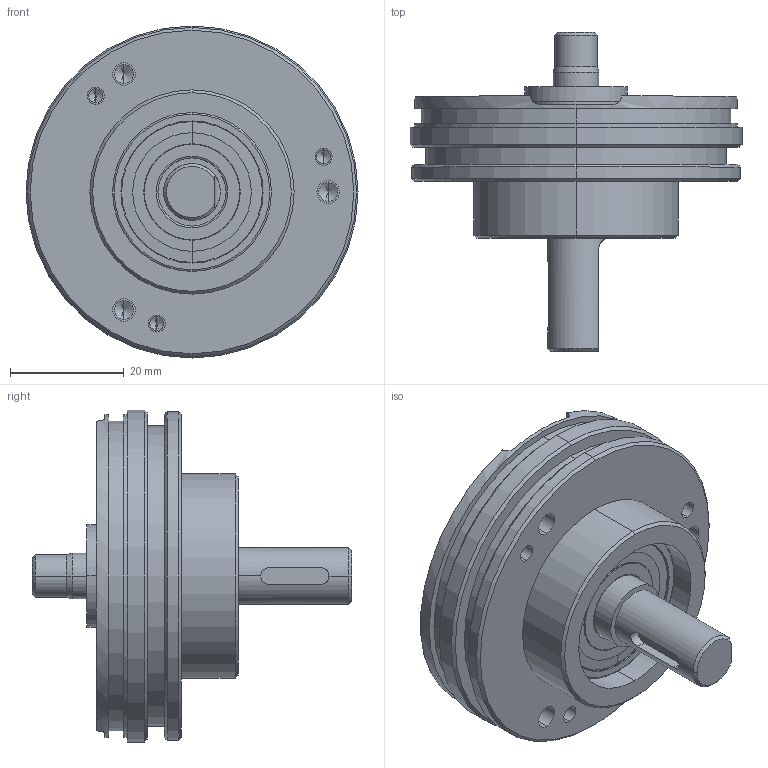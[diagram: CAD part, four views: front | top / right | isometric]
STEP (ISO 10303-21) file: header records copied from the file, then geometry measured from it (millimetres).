
FILE_DESCRIPTION (( 'STEP AP203' ), '1' );
FILE_NAME ('OCD-CA30-C5Y-N.STEP', '2014-01-22T16:05:54', ( 'Admin' ), ( 'Microsoft' ), 'SwSTEP 2.0', 'SolidWorks 2006104', '' );
FILE_SCHEMA (( 'CONFIG_CONTROL_DESIGN' ));
Length unit declared in the file: centimetre
Products named in the file (1): OCD-CA30-C5Y-N
Bounding box: 58.5 x 56.25 x 58.5 mm (x, y, z)
Volume: 42001.9 mm3; surface area: 23388.9 mm2
Topology: 26 solids, 26 shells, 340 faces, 768 edges, 459 vertices
Faces by surface type: cylinder 139, cone 66, torus 52, plane 51, sphere 32
Entity records: 9015 total; most frequent: DIRECTION 1760, CARTESIAN_POINT 1602, ORIENTED_EDGE 1328, AXIS2_PLACEMENT_3D 771, EDGE_CURVE 664, CIRCLE 430, VERTEX_POINT 411, EDGE_LOOP 393
